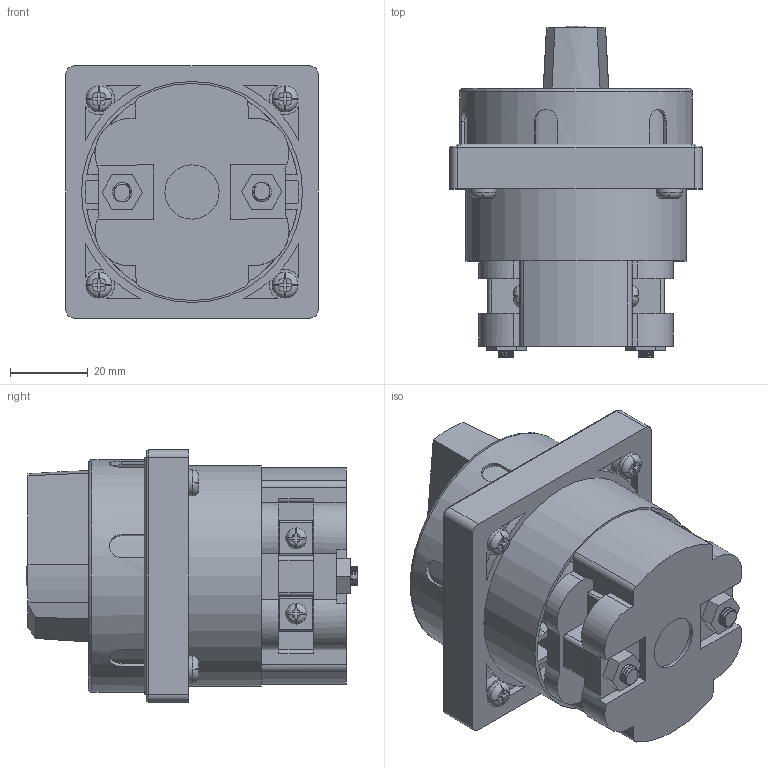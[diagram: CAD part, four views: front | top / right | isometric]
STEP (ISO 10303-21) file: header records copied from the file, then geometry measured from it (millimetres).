
FILE_DESCRIPTION(/* description */ (''),/* implementation_level */ '2;1');
FILE_NAME(/* name */ '4G16,25_S6_1_korpus.stp',/* time_stamp */ '2021-07-21T09:20:45+02:00',/* author */ (''),/* organization */ (''),/* preprocessor_version */ 'ST-DEVELOPER v18.1',/* originating_system */ 'SIEMENS PLM Software NX 1965',/* authorisation */ '');
FILE_SCHEMA (('AUTOMOTIVE_DESIGN { 1 0 10303 214 3 1 1 1 }'));
Products named in the file (1): 4G16,25_S6_1_korpus_stp
Bounding box: 65 x 85.6 x 65 mm (x, y, z)
Volume: 163681.8 mm3; surface area: 39335.4 mm2
Topology: 2 solids, 11 shells, 729 faces, 2028 edges, 1323 vertices
Faces by surface type: plane 383, cylinder 220, bspline 91, torus 15, cone 14, extrusion 6
Full cylindrical faces by diameter (mm): 2.9 x7, 3.1 x1, 4.3 x4, 5 x2, 5.4 x5, 5.6 x1, 6 x1, 6.7 x4, 7.2 x4, 8 x1, 14 x1, 55.8 x1, 57 x1, 58 x1, 60 x1
Entity records: 70405 total; most frequent: CARTESIAN_POINT 52729, ORIENTED_EDGE 3852, DIRECTION 3215, EDGE_CURVE 1926, VERTEX_POINT 1276, AXIS2_PLACEMENT_3D 1138, VECTOR 939, LINE 933
